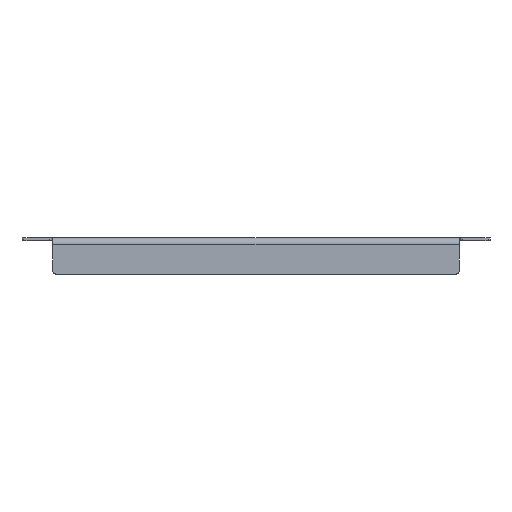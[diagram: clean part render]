
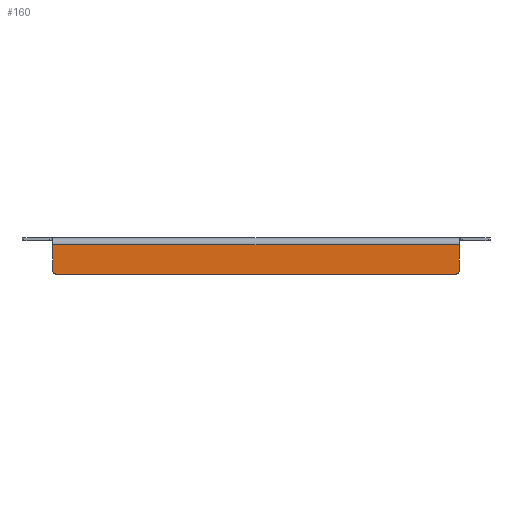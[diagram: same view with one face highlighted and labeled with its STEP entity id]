
A CAD part, left-side view. The second image highlights one B-rep face of the part: STEP entity #160.
In plain terms, the highlighted planar face has unit normal (-1, 0, 0).
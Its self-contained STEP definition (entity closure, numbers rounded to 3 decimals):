
#160=ADVANCED_FACE('',(#992),#994,.T.);
#992=FACE_BOUND('',#993,.T.);
#993=EDGE_LOOP('',(#1687,#1688,#1689,#1690,#1691,#1692));
#994=PLANE('',#995);
#995=AXIS2_PLACEMENT_3D('',#996,#997,#998);
#996=CARTESIAN_POINT('',(-37.5,0.,36.273));
#997=DIRECTION('',(-1.,0.,0.));
#998=DIRECTION('',(0.,1.,0.));
#1687=ORIENTED_EDGE('',*,*,#2052,.F.);
#1688=ORIENTED_EDGE('',*,*,#2053,.T.);
#1689=ORIENTED_EDGE('',*,*,#2054,.F.);
#1690=ORIENTED_EDGE('',*,*,#2055,.T.);
#1691=ORIENTED_EDGE('',*,*,#2030,.T.);
#1692=ORIENTED_EDGE('',*,*,#2056,.T.);
#2030=EDGE_CURVE('',#2560,#2561,#2562,.T.);
#2052=EDGE_CURVE('',#2596,#2597,#2598,.F.);
#2053=EDGE_CURVE('',#2596,#2599,#2600,.T.);
#2054=EDGE_CURVE('',#2601,#2599,#2602,.F.);
#2055=EDGE_CURVE('',#2601,#2560,#2603,.T.);
#2056=EDGE_CURVE('',#2561,#2597,#2604,.T.);
#2560=VERTEX_POINT('',#3804);
#2561=VERTEX_POINT('',#3805);
#2562=LINE('',#3806,#3807);
#2596=VERTEX_POINT('',#3892);
#2597=VERTEX_POINT('',#3893);
#2598=CIRCLE('',#3894,2.);
#2599=VERTEX_POINT('',#3898);
#2600=LINE('',#3899,#3900);
#2601=VERTEX_POINT('',#3902);
#2602=CIRCLE('',#3903,2.);
#2603=LINE('',#3907,#3908);
#2604=LINE('',#3910,#3911);
#3804=CARTESIAN_POINT('',(-37.5,-106.5,-2.));
#3805=CARTESIAN_POINT('',(-37.5,106.5,-2.));
#3806=CARTESIAN_POINT('',(-37.5,-106.5,-2.));
#3807=VECTOR('',#3808,1.);
#3808=DIRECTION('',(0.,1.,0.));
#3892=CARTESIAN_POINT('',(-37.5,104.5,-17.5));
#3893=CARTESIAN_POINT('',(-37.5,106.5,-15.5));
#3894=AXIS2_PLACEMENT_3D('',#3895,#3896,#3897);
#3895=CARTESIAN_POINT('',(-37.5,104.5,-15.5));
#3896=DIRECTION('',(-1.,0.,0.));
#3897=DIRECTION('',(0.,1.,0.));
#3898=CARTESIAN_POINT('',(-37.5,-104.5,-17.5));
#3899=CARTESIAN_POINT('',(-37.5,104.5,-17.5));
#3900=VECTOR('',#3901,1.);
#3901=DIRECTION('',(0.,-1.,0.));
#3902=CARTESIAN_POINT('',(-37.5,-106.5,-15.5));
#3903=AXIS2_PLACEMENT_3D('',#3904,#3905,#3906);
#3904=CARTESIAN_POINT('',(-37.5,-104.5,-15.5));
#3905=DIRECTION('',(-1.,0.,0.));
#3906=DIRECTION('',(0.,0.,-1.));
#3907=CARTESIAN_POINT('',(-37.5,-106.5,-15.5));
#3908=VECTOR('',#3909,1.);
#3909=DIRECTION('',(0.,0.,1.));
#3910=CARTESIAN_POINT('',(-37.5,106.5,-2.));
#3911=VECTOR('',#3912,1.);
#3912=DIRECTION('',(0.,0.,-1.));
